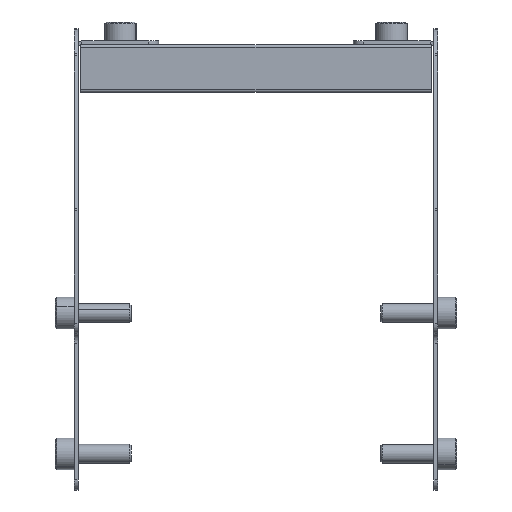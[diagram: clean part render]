
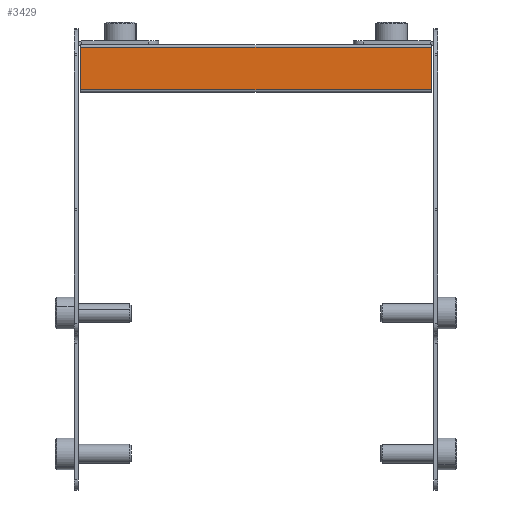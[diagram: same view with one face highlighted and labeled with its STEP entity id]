
A CAD part, front view. The second image highlights one B-rep face of the part: STEP entity #3429.
In plain terms, the highlighted planar face has unit normal (0, -1, 0) as drawn and (1, 0, 0) by its records, which use the part's own axes.
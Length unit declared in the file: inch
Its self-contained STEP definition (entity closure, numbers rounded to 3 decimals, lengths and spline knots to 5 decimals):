
#1762=DIRECTION('',(0.,-1.,0.));
#1763=VECTOR('',#1762,0.53055);
#1764=CARTESIAN_POINT('',(0.78127,0.26528,-2.18175));
#1765=LINE('',#1764,#1763);
#2451=DIRECTION('',(0.,0.,-1.));
#2452=VECTOR('',#2451,4.3635);
#2453=CARTESIAN_POINT('',(0.78127,0.26528,2.18175));
#2454=LINE('',#2453,#2452);
#2455=DIRECTION('',(0.,-1.,0.));
#2456=VECTOR('',#2455,0.53055);
#2457=CARTESIAN_POINT('',(0.78127,0.26528,2.18175));
#2458=LINE('',#2457,#2456);
#2459=DIRECTION('',(0.,0.,1.));
#2460=VECTOR('',#2459,4.3635);
#2461=CARTESIAN_POINT('',(0.78127,-0.26528,-2.18175));
#2462=LINE('',#2461,#2460);
#2872=CARTESIAN_POINT('',(0.78127,0.26528,2.18175));
#2873=CARTESIAN_POINT('',(0.78127,-0.26528,2.18175));
#2874=VERTEX_POINT('',#2872);
#2875=VERTEX_POINT('',#2873);
#2880=CARTESIAN_POINT('',(0.78127,0.26528,-2.18175));
#2881=CARTESIAN_POINT('',(0.78127,-0.26528,-2.18175));
#2882=VERTEX_POINT('',#2880);
#2883=VERTEX_POINT('',#2881);
#3417=CARTESIAN_POINT('',(0.78127,0.29528,2.18175));
#3418=DIRECTION('',(-1.,0.,0.));
#3419=DIRECTION('',(0.,0.,1.));
#3420=AXIS2_PLACEMENT_3D('',#3417,#3418,#3419);
#3421=PLANE('',#3420);
#3422=ORIENTED_EDGE('',*,*,#3218,.F.);
#3423=ORIENTED_EDGE('',*,*,#3412,.T.);
#3424=ORIENTED_EDGE('',*,*,#3069,.T.);
#3426=ORIENTED_EDGE('',*,*,#3425,.T.);
#3427=EDGE_LOOP('',(#3422,#3423,#3424,#3426));
#3428=FACE_OUTER_BOUND('',#3427,.F.);
#3069=EDGE_CURVE('',#2882,#2883,#1765,.T.);
#3218=EDGE_CURVE('',#2874,#2875,#2458,.T.);
#3412=EDGE_CURVE('',#2874,#2882,#2454,.T.);
#3425=EDGE_CURVE('',#2883,#2875,#2462,.T.);
#3429=ADVANCED_FACE('',(#3428),#3421,.F.);
